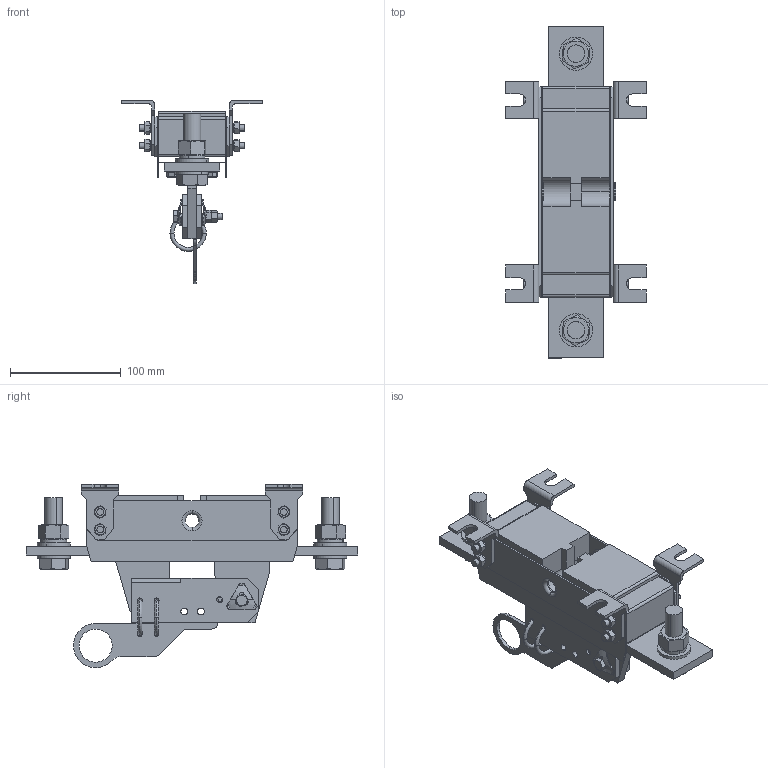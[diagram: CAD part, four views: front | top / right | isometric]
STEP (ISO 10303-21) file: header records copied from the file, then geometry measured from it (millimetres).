
FILE_DESCRIPTION (( 'STEP AP203' ), '1' );
FILE_NAME ('ÐÅ19-41(43)-11190.STEP', '2016-03-25T05:32:43', ( 'user' ), ( '' ), 'SwSTEP 2.0', 'SolidWorks 2010', '' );
FILE_SCHEMA (( 'CONFIG_CONTROL_DESIGN' ));
Length unit declared in the file: millimetre
Products named in the file (1): 陓19-41(43)-11190
Bounding box: 127 x 300 x 165.8 mm (x, y, z)
Surface area: 209986 mm2 (no closed solid volume)
Topology: 0 solids, 74 shells, 628 faces, 2066 edges, 1513 vertices
Faces by surface type: plane 391, cylinder 149, cone 58, torus 26, sphere 4
Entity records: 23881 total; most frequent: CARTESIAN_POINT 6007, DIRECTION 3637, ORIENTED_EDGE 3347, EDGE_CURVE 2058, VERTEX_POINT 1513, AXIS2_PLACEMENT_3D 1291, LINE 1055, VECTOR 1055
